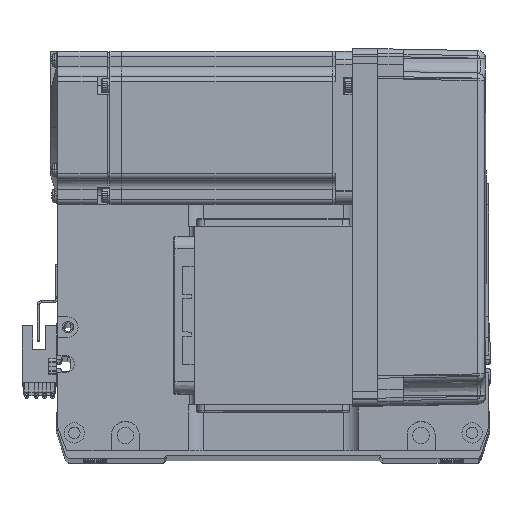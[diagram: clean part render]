
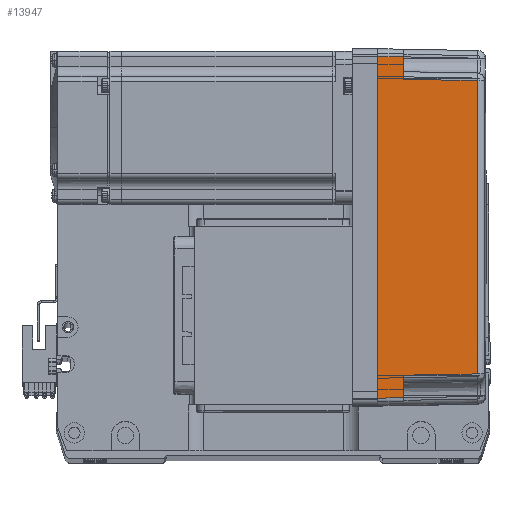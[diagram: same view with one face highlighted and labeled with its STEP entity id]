
A CAD part, top view. The second image highlights one B-rep face of the part: STEP entity #13947.
In plain terms, the highlighted planar face has unit normal (0.018, 0, 1) as drawn and (0, -1, 0.017) by its records, which use the part's own axes.
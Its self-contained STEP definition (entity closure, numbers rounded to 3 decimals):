
#1671 = VERTEX_POINT ( 'NONE', #53671 ) ;
#2504 = DIRECTION ( 'NONE',  ( 0., -0.017, -1. ) ) ;
#4034 = CARTESIAN_POINT ( 'NONE',  ( -57.495, -35.32, 38.985 ) ) ;
#4150 = CARTESIAN_POINT ( 'NONE',  ( 67., -36., 0. ) ) ;
#5825 = AXIS2_PLACEMENT_3D ( 'NONE', #13368, #33336, #2504 ) ;
#6115 = DIRECTION ( 'NONE',  ( -1., 0., 0. ) ) ;
#6237 = VERTEX_POINT ( 'NONE', #27430 ) ;
#9250 = VECTOR ( 'NONE', #6115, 1000. ) ;
#10824 = CARTESIAN_POINT ( 'NONE',  ( -19.165, -35.316, 39.181 ) ) ;
#10947 = DIRECTION ( 'NONE',  ( -0.017, -0.017, -1. ) ) ;
#12484 = FACE_OUTER_BOUND ( 'NONE', #19263, .T. ) ;
#13368 = CARTESIAN_POINT ( 'NONE',  ( 70., -36., 0. ) ) ;
#13594 = PLANE ( 'NONE',  #5825 ) ;
#13947 = ADVANCED_FACE ( 'NONE', ( #12484 ), #13594, .T. ) ;
#15108 = LINE ( 'NONE', #46032, #56924 ) ;
#15465 = EDGE_CURVE ( 'NONE', #25393, #49903, #26781, .T. ) ;
#15982 = CARTESIAN_POINT ( 'NONE',  ( -66.959, -35.958, 2.39 ) ) ;
#16279 = VECTOR ( 'NONE', #10947, 1000. ) ;
#16407 = EDGE_CURVE ( 'NONE', #6237, #45256, #61793, .T. ) ;
#16626 = ORIENTED_EDGE ( 'NONE', *, *, #55612, .T. ) ;
#16666 = CARTESIAN_POINT ( 'NONE',  ( 70., -35.825, 10. ) ) ;
#17608 = CARTESIAN_POINT ( 'NONE',  ( 57.495, -35.32, 38.985 ) ) ;
#17678 = CARTESIAN_POINT ( 'NONE',  ( 0., -36., 0. ) ) ;
#17802 = ORIENTED_EDGE ( 'NONE', *, *, #23623, .T. ) ;
#18525 = EDGE_CURVE ( 'NONE', #51839, #25393, #36799, .T. ) ;
#19263 = EDGE_LOOP ( 'NONE', ( #59428, #32923, #46645, #17802, #16626, #41342, #42735, #53741 ) ) ;
#19953 = VERTEX_POINT ( 'NONE', #4034 ) ;
#21034 = CARTESIAN_POINT ( 'NONE',  ( -57.495, -35.32, 38.985 ) ) ;
#23623 = EDGE_CURVE ( 'NONE', #25447, #19953, #32435, .T. ) ;
#25231 = LINE ( 'NONE', #17678, #31345 ) ;
#25393 = VERTEX_POINT ( 'NONE', #51812 ) ;
#25447 = VERTEX_POINT ( 'NONE', #17608 ) ;
#26781 = LINE ( 'NONE', #40376, #9250 ) ;
#27430 = CARTESIAN_POINT ( 'NONE',  ( -58., -35.825, 10. ) ) ;
#31345 = VECTOR ( 'NONE', #47629, 1000. ) ;
#32435 = B_SPLINE_CURVE_WITH_KNOTS ( 'NONE', 3,
 ( #50170, #39993, #10824, #21034 ),
 .UNSPECIFIED., .F., .F.,
 ( 4, 4 ),
 ( 0., 1. ),
 .UNSPECIFIED. ) ;
#32923 = ORIENTED_EDGE ( 'NONE', *, *, #15465, .T. ) ;
#33336 = DIRECTION ( 'NONE',  ( 0., -1., 0.017 ) ) ;
#34477 = LINE ( 'NONE', #35175, #16279 ) ;
#35175 = CARTESIAN_POINT ( 'NONE',  ( -57.495, -35.32, 38.985 ) ) ;
#36799 = LINE ( 'NONE', #4150, #61164 ) ;
#37293 = VECTOR ( 'NONE', #39388, 1000. ) ;
#39388 = DIRECTION ( 'NONE',  ( 0.017, 0.017, 1. ) ) ;
#39476 = EDGE_CURVE ( 'NONE', #49903, #25447, #15108, .T. ) ;
#39993 = CARTESIAN_POINT ( 'NONE',  ( 19.165, -35.316, 39.181 ) ) ;
#40372 = LINE ( 'NONE', #15982, #37293 ) ;
#40376 = CARTESIAN_POINT ( 'NONE',  ( 70., -35.825, 10. ) ) ;
#40688 = DIRECTION ( 'NONE',  ( -1., 0., 0. ) ) ;
#41342 = ORIENTED_EDGE ( 'NONE', *, *, #16407, .T. ) ;
#42515 = EDGE_CURVE ( 'NONE', #51839, #1671, #25231, .T. ) ;
#42735 = ORIENTED_EDGE ( 'NONE', *, *, #59956, .F. ) ;
#43294 = CARTESIAN_POINT ( 'NONE',  ( -66.826, -35.825, 10. ) ) ;
#45256 = VERTEX_POINT ( 'NONE', #43294 ) ;
#46032 = CARTESIAN_POINT ( 'NONE',  ( 58., -35.825, 10. ) ) ;
#46549 = VECTOR ( 'NONE', #40688, 1000. ) ;
#46645 = ORIENTED_EDGE ( 'NONE', *, *, #39476, .T. ) ;
#47060 = CARTESIAN_POINT ( 'NONE',  ( 58., -35.825, 10. ) ) ;
#47629 = DIRECTION ( 'NONE',  ( -1., 0., 0. ) ) ;
#48165 = DIRECTION ( 'NONE',  ( -0.017, 0.017, 1. ) ) ;
#49903 = VERTEX_POINT ( 'NONE', #47060 ) ;
#50170 = CARTESIAN_POINT ( 'NONE',  ( 57.495, -35.32, 38.985 ) ) ;
#50840 = CARTESIAN_POINT ( 'NONE',  ( 67., -36., 0. ) ) ;
#50929 = DIRECTION ( 'NONE',  ( -0.017, 0.017, 1. ) ) ;
#51812 = CARTESIAN_POINT ( 'NONE',  ( 66.826, -35.825, 10. ) ) ;
#51839 = VERTEX_POINT ( 'NONE', #50840 ) ;
#53671 = CARTESIAN_POINT ( 'NONE',  ( -67., -36., 0. ) ) ;
#53741 = ORIENTED_EDGE ( 'NONE', *, *, #42515, .F. ) ;
#55612 = EDGE_CURVE ( 'NONE', #19953, #6237, #34477, .T. ) ;
#56924 = VECTOR ( 'NONE', #50929, 1000. ) ;
#59428 = ORIENTED_EDGE ( 'NONE', *, *, #18525, .T. ) ;
#59956 = EDGE_CURVE ( 'NONE', #1671, #45256, #40372, .T. ) ;
#61164 = VECTOR ( 'NONE', #48165, 1000. ) ;
#61793 = LINE ( 'NONE', #16666, #46549 ) ;
